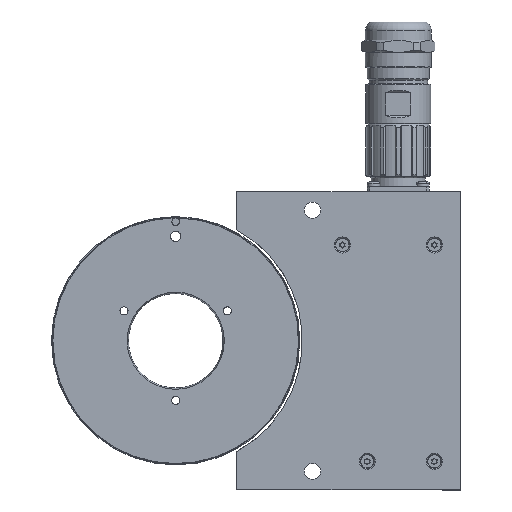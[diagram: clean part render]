
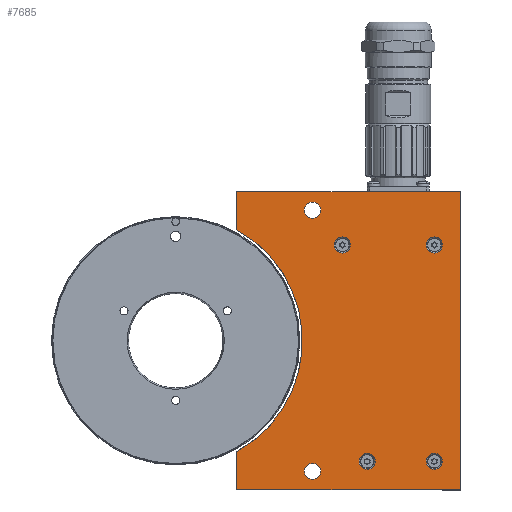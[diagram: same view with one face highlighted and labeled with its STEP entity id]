
A CAD part, left-side view. The second image highlights one B-rep face of the part: STEP entity #7685.
In plain terms, the highlighted planar face has unit normal (-1, 0, 0).
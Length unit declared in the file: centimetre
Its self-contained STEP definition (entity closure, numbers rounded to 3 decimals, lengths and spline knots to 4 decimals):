
#212=FACE_BOUND('',#2148,.T.);
#213=FACE_BOUND('',#2149,.T.);
#214=FACE_BOUND('',#2150,.T.);
#215=FACE_BOUND('',#2151,.T.);
#216=FACE_BOUND('',#2152,.T.);
#217=FACE_BOUND('',#2153,.T.);
#613=CIRCLE('',#8462,0.325);
#616=CIRCLE('',#8467,0.325);
#619=CIRCLE('',#8472,0.325);
#622=CIRCLE('',#8477,0.325);
#625=CIRCLE('',#8482,0.325);
#626=CIRCLE('',#8484,0.325);
#627=CIRCLE('',#8486,5.093);
#1515=FACE_OUTER_BOUND('',#2147,.T.);
#2147=EDGE_LOOP('',(#5962,#5963,#5964,#5965,#5966,#5967));
#2148=EDGE_LOOP('',(#5968));
#2149=EDGE_LOOP('',(#5969));
#2150=EDGE_LOOP('',(#5970));
#2151=EDGE_LOOP('',(#5971));
#2152=EDGE_LOOP('',(#5972));
#2153=EDGE_LOOP('',(#5973));
#2807=LINE('',#12849,#3149);
#2834=LINE('',#13037,#3176);
#2837=LINE('',#13041,#3179);
#2838=LINE('',#13043,#3180);
#2839=LINE('',#13045,#3181);
#3149=VECTOR('',#10087,9.);
#3176=VECTOR('',#10302,9.);
#3179=VECTOR('',#10307,1.535);
#3180=VECTOR('',#10310,1.535);
#3181=VECTOR('',#10313,12.);
#3626=VERTEX_POINT('',#12847);
#3627=VERTEX_POINT('',#12848);
#3674=VERTEX_POINT('',#12984);
#3677=VERTEX_POINT('',#12992);
#3680=VERTEX_POINT('',#13000);
#3683=VERTEX_POINT('',#13008);
#3686=VERTEX_POINT('',#13016);
#3687=VERTEX_POINT('',#13019);
#3689=VERTEX_POINT('',#13024);
#3690=VERTEX_POINT('',#13026);
#3693=VERTEX_POINT('',#13035);
#3694=VERTEX_POINT('',#13036);
#4494=EDGE_CURVE('',#3626,#3627,#2807,.T.);
#4551=EDGE_CURVE('',#3674,#3674,#613,.T.);
#4554=EDGE_CURVE('',#3677,#3677,#616,.T.);
#4557=EDGE_CURVE('',#3680,#3680,#619,.T.);
#4560=EDGE_CURVE('',#3683,#3683,#622,.T.);
#4563=EDGE_CURVE('',#3686,#3686,#625,.T.);
#4564=EDGE_CURVE('',#3687,#3687,#626,.T.);
#4567=EDGE_CURVE('',#3689,#3690,#627,.T.);
#4572=EDGE_CURVE('',#3693,#3694,#2834,.T.);
#4575=EDGE_CURVE('',#3694,#3689,#2837,.T.);
#4576=EDGE_CURVE('',#3690,#3626,#2838,.T.);
#4577=EDGE_CURVE('',#3627,#3693,#2839,.T.);
#5962=ORIENTED_EDGE('',*,*,#4572,.F.);
#5963=ORIENTED_EDGE('',*,*,#4577,.F.);
#5964=ORIENTED_EDGE('',*,*,#4494,.F.);
#5965=ORIENTED_EDGE('',*,*,#4576,.F.);
#5966=ORIENTED_EDGE('',*,*,#4567,.F.);
#5967=ORIENTED_EDGE('',*,*,#4575,.F.);
#5968=ORIENTED_EDGE('',*,*,#4551,.T.);
#5969=ORIENTED_EDGE('',*,*,#4554,.T.);
#5970=ORIENTED_EDGE('',*,*,#4557,.T.);
#5971=ORIENTED_EDGE('',*,*,#4560,.T.);
#5972=ORIENTED_EDGE('',*,*,#4563,.T.);
#5973=ORIENTED_EDGE('',*,*,#4564,.T.);
#7377=PLANE('',#8493);
#7685=ADVANCED_FACE('',(#1515,#212,#213,#214,#215,#216,#217),#7377,.F.);
#8462=AXIS2_PLACEMENT_3D('',#12985,#10242,#10243);
#8467=AXIS2_PLACEMENT_3D('',#12993,#10252,#10253);
#8472=AXIS2_PLACEMENT_3D('',#13001,#10262,#10263);
#8477=AXIS2_PLACEMENT_3D('',#13009,#10272,#10273);
#8482=AXIS2_PLACEMENT_3D('',#13017,#10282,#10283);
#8484=AXIS2_PLACEMENT_3D('',#13020,#10286,#10287);
#8486=AXIS2_PLACEMENT_3D('',#13027,#10292,#10293);
#8493=AXIS2_PLACEMENT_3D('',#13046,#10314,#10315);
#10087=DIRECTION('',(0.,-1.,0.));
#10242=DIRECTION('center_axis',(1.,0.,0.));
#10243=DIRECTION('ref_axis',(0.,0.,1.));
#10252=DIRECTION('center_axis',(1.,0.,0.));
#10253=DIRECTION('ref_axis',(0.,0.,1.));
#10262=DIRECTION('center_axis',(1.,0.,0.));
#10263=DIRECTION('ref_axis',(0.,0.,1.));
#10272=DIRECTION('center_axis',(1.,0.,0.));
#10273=DIRECTION('ref_axis',(0.,0.,1.));
#10282=DIRECTION('center_axis',(1.,0.,0.));
#10283=DIRECTION('ref_axis',(0.,0.,-1.));
#10286=DIRECTION('center_axis',(1.,0.,0.));
#10287=DIRECTION('ref_axis',(0.,0.,-1.));
#10292=DIRECTION('center_axis',(-1.,0.,0.));
#10293=DIRECTION('ref_axis',(0.,0.481,-0.877));
#10302=DIRECTION('',(0.,1.,0.));
#10307=DIRECTION('',(0.,0.,1.));
#10310=DIRECTION('',(0.,0.,1.));
#10313=DIRECTION('',(0.,0.,-1.));
#10314=DIRECTION('center_axis',(1.,0.,0.));
#10315=DIRECTION('ref_axis',(0.,0.,-1.));
#12847=CARTESIAN_POINT('',(-1.65,-2.45,6.));
#12848=CARTESIAN_POINT('',(-1.65,-11.45,6.));
#12849=CARTESIAN_POINT('',(-1.65,-2.45,6.));
#12984=CARTESIAN_POINT('',(-1.65,-10.4,4.175));
#12985=CARTESIAN_POINT('Origin',(-1.65,-10.4,3.85));
#12992=CARTESIAN_POINT('',(-1.65,-7.7,-4.525));
#12993=CARTESIAN_POINT('Origin',(-1.65,-7.7,-4.85));
#13000=CARTESIAN_POINT('',(-1.65,-10.4,-4.525));
#13001=CARTESIAN_POINT('Origin',(-1.65,-10.4,-4.85));
#13008=CARTESIAN_POINT('',(-1.65,-6.7,4.175));
#13009=CARTESIAN_POINT('Origin',(-1.65,-6.7,3.85));
#13016=CARTESIAN_POINT('',(-1.65,-5.5,5.575));
#13017=CARTESIAN_POINT('Origin',(-1.65,-5.5,5.25));
#13019=CARTESIAN_POINT('',(-1.65,-5.5,-4.925));
#13020=CARTESIAN_POINT('Origin',(-1.65,-5.5,-5.25));
#13024=CARTESIAN_POINT('',(-1.65,-2.45,-4.465));
#13026=CARTESIAN_POINT('',(-1.65,-2.45,4.465));
#13027=CARTESIAN_POINT('Origin',(-1.65,0.,0.));
#13035=CARTESIAN_POINT('',(-1.65,-11.45,-6.));
#13036=CARTESIAN_POINT('',(-1.65,-2.45,-6.));
#13037=CARTESIAN_POINT('',(-1.65,-11.45,-6.));
#13041=CARTESIAN_POINT('',(-1.65,-2.45,-6.));
#13043=CARTESIAN_POINT('',(-1.65,-2.45,4.465));
#13045=CARTESIAN_POINT('',(-1.65,-11.45,6.));
#13046=CARTESIAN_POINT('Origin',(-1.65,-7.1348,0.));
